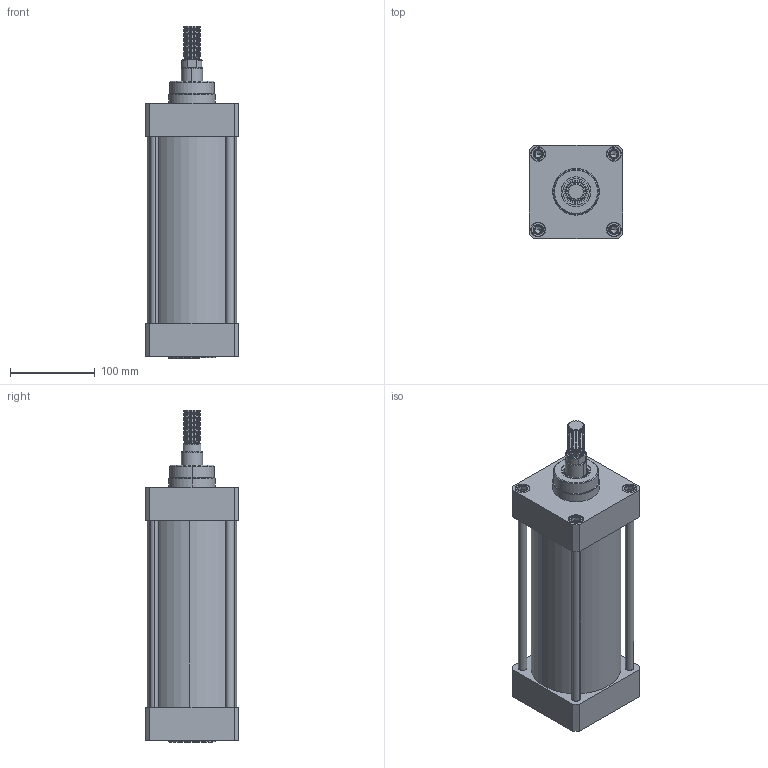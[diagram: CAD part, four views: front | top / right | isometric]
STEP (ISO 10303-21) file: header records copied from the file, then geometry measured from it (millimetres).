
FILE_DESCRIPTION (( 'STEP AP203' ), '1' );
FILE_NAME ('XJSS100.0160.STEP', '2005-12-01T08:16:30', ( 'Vesta Automation srl' ), ( 'Vesta Automation srl' ), 'SwSTEP 2.0', 'SolidWorks 2005187', '' );
FILE_SCHEMA (( 'CONFIG_CONTROL_DESIGN' ));
Length unit declared in the file: millimetre
Products named in the file (6): PISTON ROD-XJSS100_STROKE 0160; TIE ROD-XJSS100_STROKE 0160; XJSS100.0160; FRONT END CAP-XJSS100; REAR END CAP-XJSS100; BARREL-XJSS100_STROKE 0160
Assembly tree (8 placements, depth 2):
  XJSS100.0160
    PISTON ROD-XJSS100_STROKE 0160
    FRONT END CAP-XJSS100
    TIE ROD-XJSS100_STROKE 0160  x4
    BARREL-XJSS100_STROKE 0160
    REAR END CAP-XJSS100
Bounding box: 110 x 110 x 391 mm (x, y, z)
Volume: 1786058.7 mm3; surface area: 370502.1 mm2
Topology: 8 solids, 8 shells, 904 faces, 1928 edges, 1096 vertices
Faces by surface type: cone 430, cylinder 258, plane 212, torus 4
Entity records: 24640 total; most frequent: DIRECTION 4440, CARTESIAN_POINT 4425, ORIENTED_EDGE 3788, EDGE_CURVE 1894, AXIS2_PLACEMENT_3D 1761, VERTEX_POINT 1084, EDGE_LOOP 972, VECTOR 918
